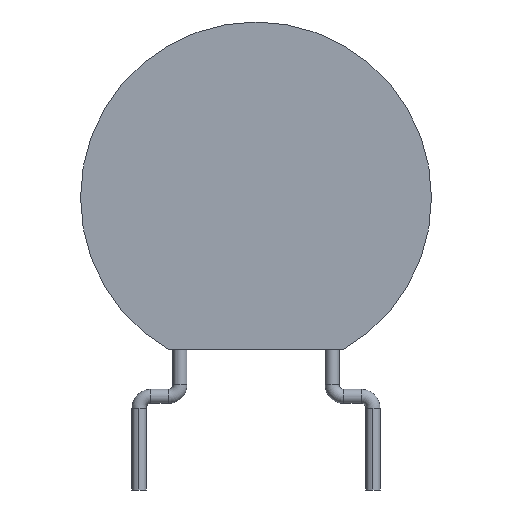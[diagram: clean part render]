
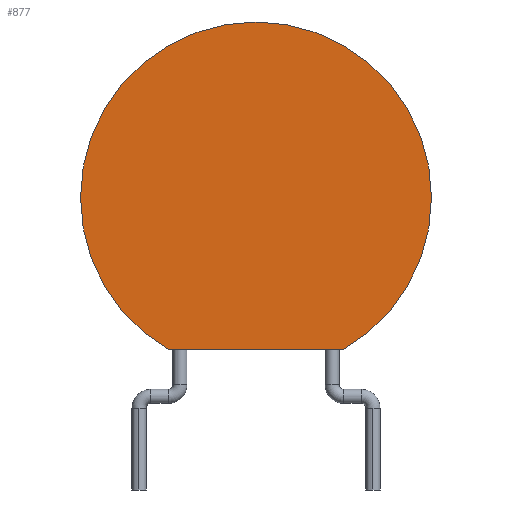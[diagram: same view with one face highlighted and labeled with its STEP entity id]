
A CAD part, front view. The second image highlights one B-rep face of the part: STEP entity #877.
In plain terms, the highlighted planar face has unit normal (0, -1, 0).
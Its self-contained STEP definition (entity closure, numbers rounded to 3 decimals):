
#736 = CARTESIAN_POINT ( 'NONE',  ( 7.5, -2.5, 10.5 ) ) ;
#737 = VERTEX_POINT ( 'NONE', #736 ) ;
#738 = CARTESIAN_POINT ( 'NONE',  ( -7.5, -2.5, 10.5 ) ) ;
#739 = VERTEX_POINT ( 'NONE', #738 ) ;
#740 = CARTESIAN_POINT ( 'NONE',  ( 0., -2.5, 10.5 ) ) ;
#741 = DIRECTION ( 'NONE',  ( 0., -1., 0. ) ) ;
#742 = DIRECTION ( 'NONE',  ( -1., 0., 0. ) ) ;
#743 = AXIS2_PLACEMENT_3D ( 'NONE', #740, #741, #742 ) ;
#744 = CIRCLE ( 'NONE', #743, 7.5) ;
#745 = EDGE_CURVE ( 'NONE', #737, #739, #744, .T. ) ;
#778 = CARTESIAN_POINT ( 'NONE',  ( -3.75, -2.5, 4.005 ) ) ;
#779 = VERTEX_POINT ( 'NONE', #778 ) ;
#780 = CARTESIAN_POINT ( 'NONE',  ( 0., -2.5, 10.5 ) ) ;
#781 = DIRECTION ( 'NONE',  ( 0., -1., 0. ) ) ;
#782 = DIRECTION ( 'NONE',  ( -1., 0., 0. ) ) ;
#783 = AXIS2_PLACEMENT_3D ( 'NONE', #780, #781, #782 ) ;
#784 = CIRCLE ( 'NONE', #783, 7.5) ;
#785 = EDGE_CURVE ( 'NONE', #739, #779, #784, .T. ) ;
#812 = CARTESIAN_POINT ( 'NONE',  ( 3.75, -2.5, 4.005 ) ) ;
#813 = VERTEX_POINT ( 'NONE', #812 ) ;
#814 = CARTESIAN_POINT ( 'NONE',  ( 0., -2.5, 10.5 ) ) ;
#815 = DIRECTION ( 'NONE',  ( 0., -1., 0. ) ) ;
#816 = DIRECTION ( 'NONE',  ( -1., 0., 0. ) ) ;
#817 = AXIS2_PLACEMENT_3D ( 'NONE', #814, #815, #816 ) ;
#818 = CIRCLE ( 'NONE', #817, 7.5) ;
#819 = EDGE_CURVE ( 'NONE', #813, #737, #818, .T. ) ;
#851 = CARTESIAN_POINT ( 'NONE',  ( -3.75, -2.5, 4.005 ) ) ;
#852 = DIRECTION ( 'NONE',  ( 1., 0., 0. ) ) ;
#853 = VECTOR ( 'NONE', #852, 1000. ) ;
#854 = LINE ( 'NONE', #851, #853 ) ;
#855 = EDGE_CURVE ( 'NONE', #779, #813, #854, .T. ) ;
#866 = ORIENTED_EDGE ( 'NONE', *, *, #819, .T. ) ;
#867 = ORIENTED_EDGE ( 'NONE', *, *, #745, .T. ) ;
#868 = ORIENTED_EDGE ( 'NONE', *, *, #785, .T. ) ;
#869 = ORIENTED_EDGE ( 'NONE', *, *, #855, .T. ) ;
#870 = EDGE_LOOP ( 'NONE', ( #866, #867, #868, #869 ) ) ;
#871 = FACE_OUTER_BOUND ( 'NONE', #870, .T. ) ;
#872 = CARTESIAN_POINT ( 'NONE',  ( 0., -2.5, 10.5 ) ) ;
#873 = DIRECTION ( 'NONE',  ( 0., 1., 0. ) ) ;
#874 = DIRECTION ( 'NONE',  ( -1., 0., 0. ) ) ;
#875 = AXIS2_PLACEMENT_3D ( 'NONE', #872, #873, #874 ) ;
#876 = PLANE ( 'NONE', #875 ) ;
#877 = ADVANCED_FACE ( 'NONE', ( #871 ), #876, .F. ) ;
